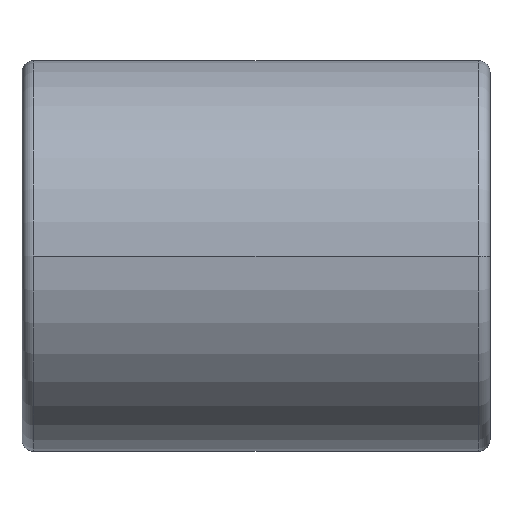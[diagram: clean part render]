
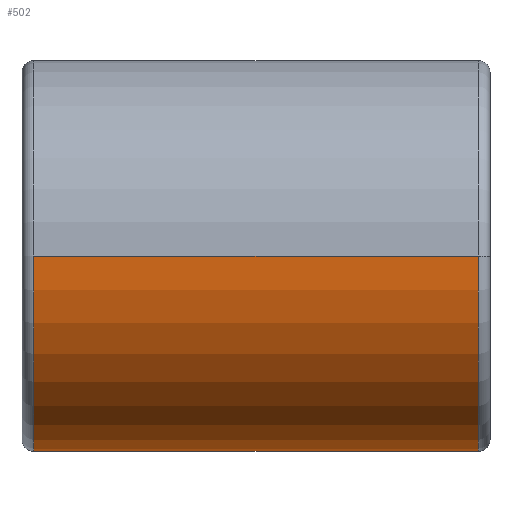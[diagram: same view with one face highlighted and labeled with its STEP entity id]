
A CAD part, left-side view. The second image highlights one B-rep face of the part: STEP entity #502.
In plain terms, the highlighted cylindrical face has radius 16.5 mm (diameter 33 mm), a partial arc.
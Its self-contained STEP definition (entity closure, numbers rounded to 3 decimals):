
#207 = CARTESIAN_POINT ( 'NONE',  ( -16.5, -18.75, 0. ) ) ;
#389 = CARTESIAN_POINT ( 'NONE',  ( 0., -19.75, 0. ) ) ;
#440 = VECTOR ( 'NONE', #3219, 1000. ) ;
#463 = LINE ( 'NONE', #2011, #2440 ) ;
#502 = ADVANCED_FACE ( 'NONE', ( #550 ), #739, .T. ) ;
#550 = FACE_OUTER_BOUND ( 'NONE', #1466, .T. ) ;
#629 = AXIS2_PLACEMENT_3D ( 'NONE', #3063, #1388, #1681 ) ;
#735 = DIRECTION ( 'NONE',  ( 0., -1., 0. ) ) ;
#739 = CYLINDRICAL_SURFACE ( 'NONE', #1768, 16.5 ) ;
#923 = LINE ( 'NONE', #1269, #440 ) ;
#1148 = ORIENTED_EDGE ( 'NONE', *, *, #2437, .T. ) ;
#1269 = CARTESIAN_POINT ( 'NONE',  ( 0., -19.75, -16.5 ) ) ;
#1388 = DIRECTION ( 'NONE',  ( 0., 1., 0. ) ) ;
#1466 = EDGE_LOOP ( 'NONE', ( #1148, #2370, #2472, #2446 ) ) ;
#1681 = DIRECTION ( 'NONE',  ( -1., 0., 0. ) ) ;
#1758 = DIRECTION ( 'NONE',  ( 0., 1., 0. ) ) ;
#1768 = AXIS2_PLACEMENT_3D ( 'NONE', #389, #1859, #2507 ) ;
#1859 = DIRECTION ( 'NONE',  ( 0., 1., 0. ) ) ;
#1918 = CIRCLE ( 'NONE', #629, 16.5 ) ;
#1944 = CARTESIAN_POINT ( 'NONE',  ( 0., 18.75, -16.5 ) ) ;
#2011 = CARTESIAN_POINT ( 'NONE',  ( -16.5, -19.75, 0. ) ) ;
#2130 = EDGE_CURVE ( 'NONE', #3067, #2952, #463, .T. ) ;
#2170 = VERTEX_POINT ( 'NONE', #1944 ) ;
#2223 = EDGE_CURVE ( 'NONE', #2917, #2170, #923, .T. ) ;
#2287 = CARTESIAN_POINT ( 'NONE',  ( 0., 18.75, 0. ) ) ;
#2304 = AXIS2_PLACEMENT_3D ( 'NONE', #2287, #735, #2526 ) ;
#2370 = ORIENTED_EDGE ( 'NONE', *, *, #2130, .T. ) ;
#2437 = EDGE_CURVE ( 'NONE', #2917, #3067, #1918, .T. ) ;
#2440 = VECTOR ( 'NONE', #1758, 1000. ) ;
#2446 = ORIENTED_EDGE ( 'NONE', *, *, #2223, .F. ) ;
#2472 = ORIENTED_EDGE ( 'NONE', *, *, #3253, .T. ) ;
#2507 = DIRECTION ( 'NONE',  ( -1., 0., 0. ) ) ;
#2526 = DIRECTION ( 'NONE',  ( 1., 0., 0. ) ) ;
#2637 = CARTESIAN_POINT ( 'NONE',  ( 0., -18.75, -16.5 ) ) ;
#2879 = CARTESIAN_POINT ( 'NONE',  ( -16.5, 18.75, 0. ) ) ;
#2917 = VERTEX_POINT ( 'NONE', #2637 ) ;
#2952 = VERTEX_POINT ( 'NONE', #2879 ) ;
#3063 = CARTESIAN_POINT ( 'NONE',  ( 0., -18.75, 0. ) ) ;
#3067 = VERTEX_POINT ( 'NONE', #207 ) ;
#3076 = CIRCLE ( 'NONE', #2304, 16.5 ) ;
#3219 = DIRECTION ( 'NONE',  ( 0., 1., 0. ) ) ;
#3253 = EDGE_CURVE ( 'NONE', #2952, #2170, #3076, .T. ) ;
